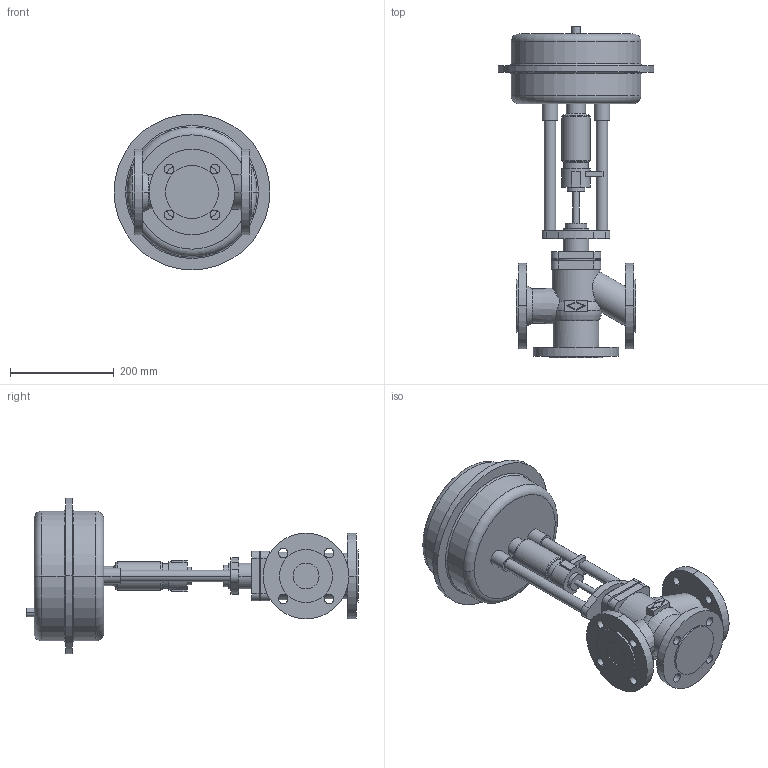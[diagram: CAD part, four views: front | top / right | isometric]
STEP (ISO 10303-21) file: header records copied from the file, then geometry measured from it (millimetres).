
FILE_DESCRIPTION(('OneSpaceDesigner STEP Export'),'2;1');
FILE_NAME('c000000665.stp','2006-09-19T10:03:21',(''),(''),'OneSpace Designer STEP processor for AP214 (Solid Model)','OneSpace Designer 13.20A 18-Aug-2005 (C) CoCreate Software GmbH','');
FILE_SCHEMA(('AUTOMOTIVE_DESIGN { 1 0 10303 214 1 1 1 1 }'));
Length unit declared in the file: millimetre
Products named in the file (2): 1; 2
Bounding box: 300 x 639.1 x 300 mm (x, y, z)
Volume: 10340777.5 mm3; surface area: 572446.5 mm2
Topology: 2 solids, 2 shells, 205 faces, 497 edges, 324 vertices
Faces by surface type: cylinder 94, plane 81, torus 22, cone 8
Entity records: 5568 total; most frequent: CARTESIAN_POINT 1129, ORIENTED_EDGE 994, DIRECTION 810, EDGE_CURVE 497, VERTEX_POINT 324, AXIS2_PLACEMENT_3D 293, EDGE_LOOP 257, VECTOR 224
